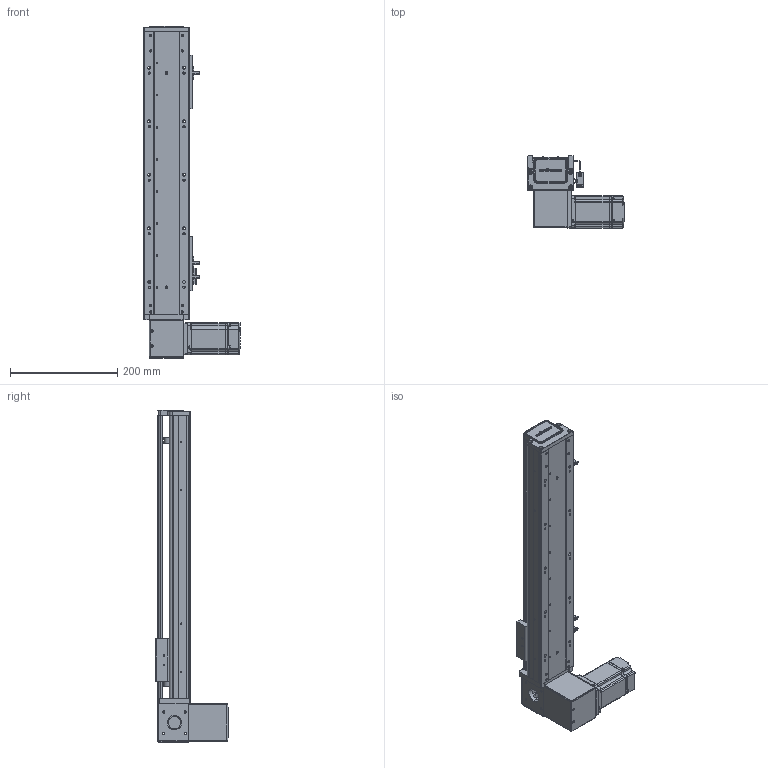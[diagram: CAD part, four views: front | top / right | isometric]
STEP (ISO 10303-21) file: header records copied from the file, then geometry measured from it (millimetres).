
FILE_DESCRIPTION (( 'STEP AP203' ), '1' );
FILE_NAME ('RY80-T-300-DR.SLDASM_350.step', '2021-03-01T01:49:12', ( '盈信电脑' ), ( '东莞市道滘镇水果街19号' ), 'SwSTEP 2.0', 'SolidWorks 2012', '' );
FILE_SCHEMA (( 'CONFIG_CONTROL_DESIGN' ));
Products named in the file (18): RY80-T-M4蹟翐3; RY80-T-300-DR.SLDASM_350; RY80-T萇儂假蚾啣; RY80-T肮祭謫狟殏俋欶; 1; RY80-T-上下折同步轮盖板; 滅袉蝶18-10; RY80-T翋肮祭謫裔啣; RY80-T肮祭湍揤輸2; RY80-T肮祭湍揤輸1; RY80-T-翋肮祭謫釱; 覜茼ん672; RY80俋离覜茼え; 672嫖萇羲壽假蚾釱; RY80-T-300-DR倰第奻裔啣_350; RY80-T肮祭謫臏賑輸; RY80-T綴裔啣; RY80-T-300-DR倰第菁釱_350
Assembly tree (21 placements, depth 2):
  RY80-T-300-DR.SLDASM_350
    RY80-T-300-DR倰第菁釱_350
    RY80-T肮祭謫臏賑輸
    RY80-T-300-DR倰第奻裔啣_350
    RY80-T綴裔啣
    672嫖萇羲壽假蚾釱  x2
    覜茼ん672  x3
    RY80俋离覜茼え
    RY80-T-翋肮祭謫釱
    RY80-T肮祭湍揤輸1
    RY80-T肮祭湍揤輸2
    滅袉蝶18-10  x2
    RY80-T翋肮祭謫裔啣
    RY80-T-上下折同步轮盖板
    RY80-T肮祭謫狟殏俋欶
    RY80-T萇儂假蚾啣
    1
    RY80-T-M4蹟翐3
Bounding box: 180 x 134.5 x 620 mm (x, y, z)
Volume: 1322806 mm3; surface area: 525605.3 mm2
Topology: 21 solids, 21 shells, 2328 faces, 6414 edges, 4162 vertices
Faces by surface type: plane 1291, cylinder 842, cone 139, bspline 56
Entity records: 73274 total; most frequent: CARTESIAN_POINT 17340, ORIENTED_EDGE 11472, DIRECTION 10834, EDGE_CURVE 5736, VERTEX_POINT 3766, VECTOR 3634, LINE 3634, AXIS2_PLACEMENT_3D 3600
